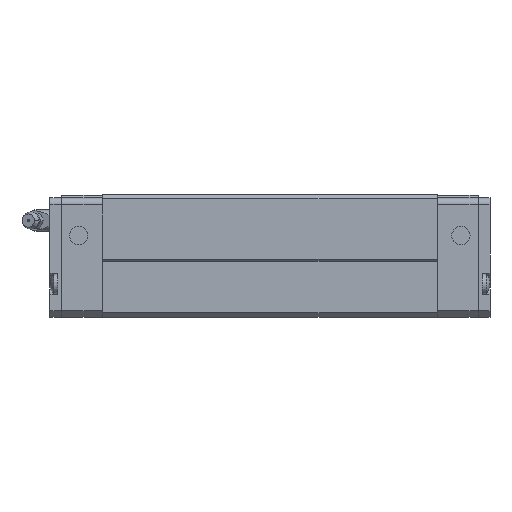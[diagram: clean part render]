
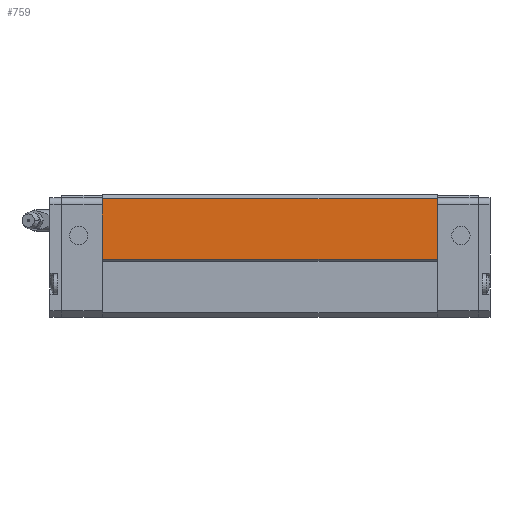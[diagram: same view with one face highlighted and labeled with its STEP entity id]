
A CAD part, front view. The second image highlights one B-rep face of the part: STEP entity #759.
In plain terms, the highlighted planar face has unit normal (0, -1, 0).
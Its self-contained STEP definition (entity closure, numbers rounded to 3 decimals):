
#698=CARTESIAN_POINT('POINT44',(180.3,-50.,
   27.));
#699=VERTEX_POINT('VERTEX44',#698);
#706=CARTESIAN_POINT('POINT45',(24.5,-50.,
   27.));
#707=VERTEX_POINT('VERTEX45',#706);
#708=CARTESIAN_POINT('POS73',(24.5,-50.,
   27.));
#709=DIRECTION('DIR108',(1.,0.,0.));
#710=VECTOR('VEC38',#709,1.);
#711=LINE('STRAIGHT38',#708,#710);
#712=EDGE_CURVE('EDGE70',#707,#699,#711,.T.);
#729=CARTESIAN_POINT('POINT46',(180.3,-50.,
   55.05));
#730=VERTEX_POINT('VERTEX46',#729);
#731=CARTESIAN_POINT('POS76',(180.3,-50.,
   27.));
#732=DIRECTION('DIR112',(0.,0.,1.));
#733=VECTOR('VEC40',#732,1.);
#734=LINE('STRAIGHT40',#731,#733);
#735=EDGE_CURVE('EDGE72',#699,#730,#734,.T.);
#736=ORIENTED_EDGE('COEDGE127',*,*,#735,.T.);
#737=CARTESIAN_POINT('POINT47',(24.5,-50.,
   55.05));
#738=VERTEX_POINT('VERTEX47',#737);
#739=CARTESIAN_POINT('POS77',(24.5,-50.,
   55.05));
#740=DIRECTION('DIR113',(1.,0.,0.));
#741=VECTOR('VEC41',#740,1.);
#742=LINE('STRAIGHT41',#739,#741);
#743=EDGE_CURVE('EDGE73',#738,#730,#742,.T.);
#744=ORIENTED_EDGE('COEDGE128',*,*,#743,.F.);
#745=CARTESIAN_POINT('POS78',(24.5,-50.,
   27.));
#746=DIRECTION('DIR114',(0.,0.,1.));
#747=VECTOR('VEC42',#746,1.);
#748=LINE('STRAIGHT42',#745,#747);
#749=EDGE_CURVE('EDGE74',#707,#738,#748,.T.);
#750=ORIENTED_EDGE('COEDGE129',*,*,#749,.F.);
#751=ORIENTED_EDGE('COEDGE130',*,*,#712,.T.);
#752=EDGE_LOOP('NONE',(#736,#744,#750,#751));
#753=FACE_BOUND('LOOP1',#752,.T.);
#754=CARTESIAN_POINT('POS79',(24.5,-50.,
   27.));
#755=DIRECTION('DIR115',(0.,-1.,0.));
#756=DIRECTION('DIR116',(1.,0.,0.));
#757=AXIS2_PLACEMENT_3D('AXIS37',#754,#755,#756);
#758=PLANE('PLANE8',#757);
#759=ADVANCED_FACE('FACE34',(#753),#758,.T.);
